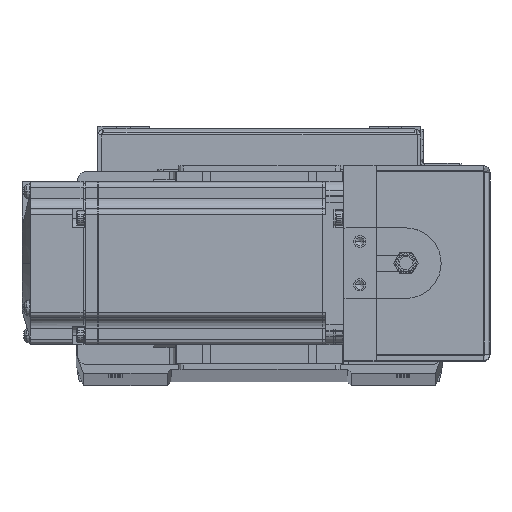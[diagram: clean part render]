
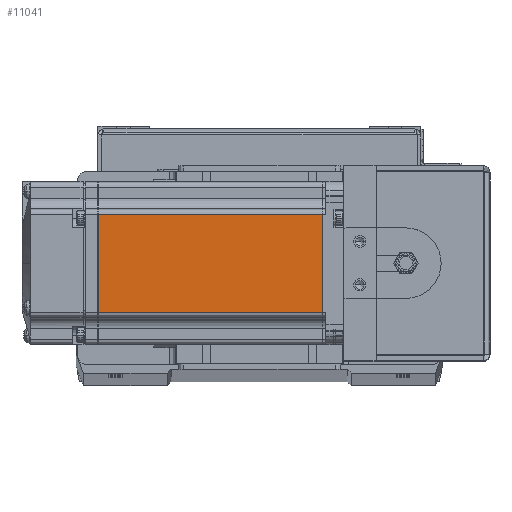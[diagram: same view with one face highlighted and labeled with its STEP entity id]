
A CAD part, top view. The second image highlights one B-rep face of the part: STEP entity #11041.
In plain terms, the highlighted planar face has unit normal (0, 0, 1).
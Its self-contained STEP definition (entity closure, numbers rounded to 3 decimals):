
#1340 = EDGE_CURVE ( 'NONE', #22998, #20228, #21587, .T. ) ;
#2938 = CARTESIAN_POINT ( 'NONE',  ( -7.75, 18., 30. ) ) ;
#4198 = CARTESIAN_POINT ( 'NONE',  ( -90.45, 18., 30. ) ) ;
#4831 = EDGE_LOOP ( 'NONE', ( #33248, #25451, #29096, #23354 ) ) ;
#6158 = VECTOR ( 'NONE', #31698, 1000. ) ;
#6175 = LINE ( 'NONE', #37185, #15970 ) ;
#6816 = VECTOR ( 'NONE', #19452, 1000. ) ;
#8771 = CARTESIAN_POINT ( 'NONE',  ( -6.5, -18., 30. ) ) ;
#11041 = ADVANCED_FACE ( 'NONE', ( #27427 ), #39791, .T. ) ;
#14722 = EDGE_CURVE ( 'NONE', #20228, #16788, #30457, .T. ) ;
#15838 = CARTESIAN_POINT ( 'NONE',  ( -90.45, 0., 30. ) ) ;
#15935 = VERTEX_POINT ( 'NONE', #4198 ) ;
#15970 = VECTOR ( 'NONE', #30915, 1000. ) ;
#16788 = VERTEX_POINT ( 'NONE', #27134 ) ;
#17916 = DIRECTION ( 'NONE',  ( 1., 0., 0. ) ) ;
#19452 = DIRECTION ( 'NONE',  ( 0., -1., 0. ) ) ;
#20228 = VERTEX_POINT ( 'NONE', #34111 ) ;
#21124 = CARTESIAN_POINT ( 'NONE',  ( -6.5, -25., 30. ) ) ;
#21587 = LINE ( 'NONE', #21982, #6158 ) ;
#21982 = CARTESIAN_POINT ( 'NONE',  ( -7.75, 0., 30. ) ) ;
#22440 = EDGE_CURVE ( 'NONE', #15935, #16788, #37712, .T. ) ;
#22998 = VERTEX_POINT ( 'NONE', #2938 ) ;
#23354 = ORIENTED_EDGE ( 'NONE', *, *, #14722, .F. ) ;
#24628 = EDGE_CURVE ( 'NONE', #22998, #15935, #6175, .T. ) ;
#25451 = ORIENTED_EDGE ( 'NONE', *, *, #24628, .T. ) ;
#27134 = CARTESIAN_POINT ( 'NONE',  ( -90.45, -18., 30. ) ) ;
#27427 = FACE_OUTER_BOUND ( 'NONE', #4831, .T. ) ;
#29096 = ORIENTED_EDGE ( 'NONE', *, *, #22440, .T. ) ;
#30457 = LINE ( 'NONE', #8771, #37657 ) ;
#30678 = DIRECTION ( 'NONE',  ( 0., 0., 1. ) ) ;
#30896 = AXIS2_PLACEMENT_3D ( 'NONE', #21124, #30678, #17916 ) ;
#30915 = DIRECTION ( 'NONE',  ( -1., 0., 0. ) ) ;
#31698 = DIRECTION ( 'NONE',  ( 0., -1., 0. ) ) ;
#32896 = DIRECTION ( 'NONE',  ( -1., 0., 0. ) ) ;
#33248 = ORIENTED_EDGE ( 'NONE', *, *, #1340, .F. ) ;
#34111 = CARTESIAN_POINT ( 'NONE',  ( -7.75, -18., 30. ) ) ;
#37185 = CARTESIAN_POINT ( 'NONE',  ( -6.5, 18., 30. ) ) ;
#37657 = VECTOR ( 'NONE', #32896, 1000. ) ;
#37712 = LINE ( 'NONE', #15838, #6816 ) ;
#39791 = PLANE ( 'NONE',  #30896 ) ;
